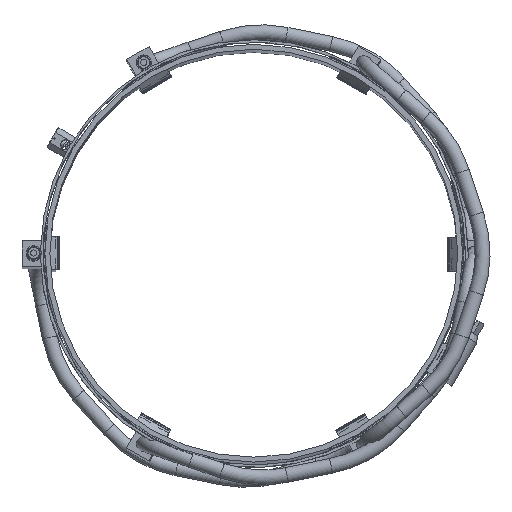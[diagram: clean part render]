
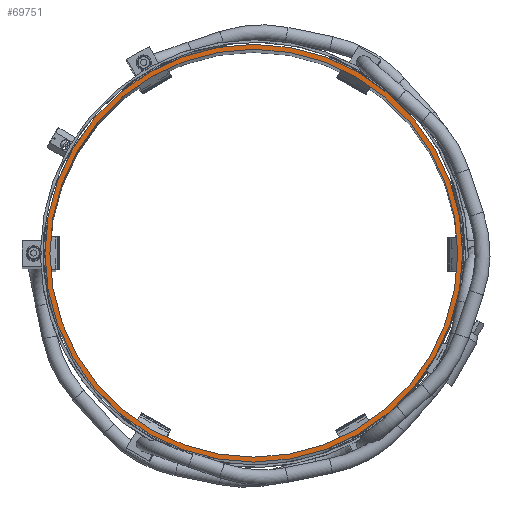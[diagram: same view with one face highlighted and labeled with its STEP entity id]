
A CAD part, top view. The second image highlights one B-rep face of the part: STEP entity #69751.
In plain terms, the highlighted planar face has unit normal (0, 0, 1).
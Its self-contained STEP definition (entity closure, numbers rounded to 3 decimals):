
#17169=PLANE('',#68547);
#18305=ORIENTED_EDGE('',*,*,#23480,.T.);
#18306=ORIENTED_EDGE('',*,*,#23338,.T.);
#21554=CIRCLE('',#68422,82.15);
#21609=CIRCLE('',#68491,84.15);
#22045=VERTEX_POINT('',#35730);
#22185=VERTEX_POINT('',#39524);
#23338=EDGE_CURVE('',#22045,#22045,#21554,.T.);
#23480=EDGE_CURVE('',#22185,#22185,#21609,.T.);
#25162=EDGE_LOOP('',(#18305));
#25163=EDGE_LOOP('',(#18306));
#26061=FACE_BOUND('',#25162,.T.);
#26062=FACE_BOUND('',#25163,.T.);
#27071=DIRECTION('',(0.,0.,-1.));
#27072=DIRECTION('',(82.15,0.,0.));
#27260=DIRECTION('',(0.,0.,1.));
#27261=DIRECTION('',(84.15,0.,0.));
#27400=DIRECTION('',(0.,0.,1.));
#27401=DIRECTION('',(0.,-1.,0.));
#35730=CARTESIAN_POINT('',(175.393,33.589,695.626));
#35731=CARTESIAN_POINT('',(93.243,33.589,695.626));
#39524=CARTESIAN_POINT('',(177.393,33.589,695.626));
#39525=CARTESIAN_POINT('',(93.243,33.589,695.626));
#42032=CARTESIAN_POINT('',(93.243,33.589,695.626));
#68422=AXIS2_PLACEMENT_3D('',#35731,#27071,#27072);
#68491=AXIS2_PLACEMENT_3D('',#39525,#27260,#27261);
#68547=AXIS2_PLACEMENT_3D('',#42032,#27400,#27401);
#69751=ADVANCED_FACE('',(#26061,#26062),#17169,.T.);
